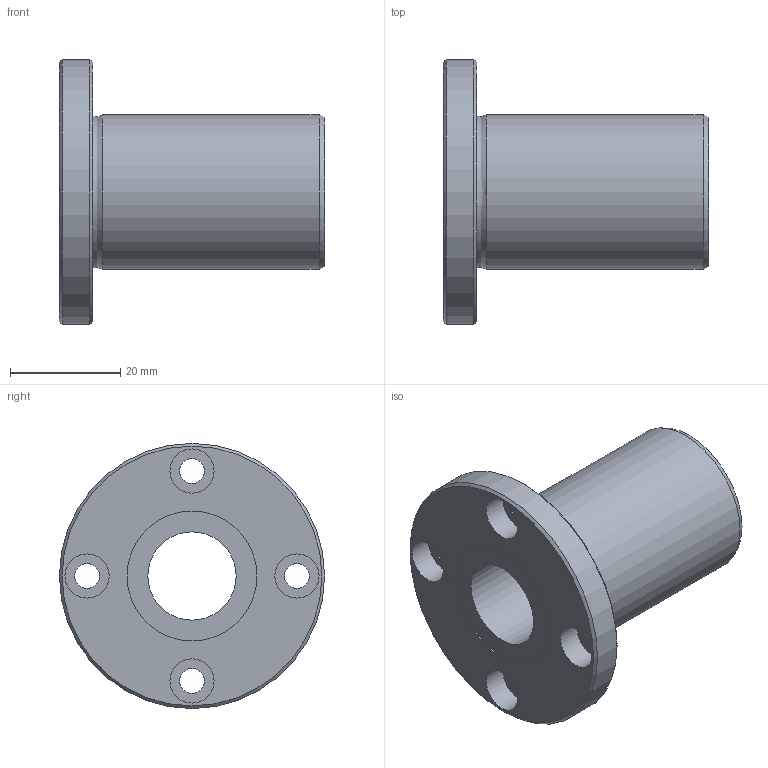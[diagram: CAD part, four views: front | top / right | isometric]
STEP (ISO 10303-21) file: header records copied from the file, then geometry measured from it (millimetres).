
FILE_DESCRIPTION((''),'2;1');
FILE_NAME('D:\製品 (図面)\カタログ用3D\メンテナンスフリー関連\STEP形式\LF-MF\LF16MF.stp','2010-06-01T16:04:54',('Tsuchiya'),(''),'Autodesk Inventor 10','Autodesk Inventor 10','');
FILE_SCHEMA(('AUTOMOTIVE_DESIGN { 1 0 10303 214 1 1 1 1 }'));
Length unit declared in the file: millimetre
Products named in the file (1): LF16MF
Bounding box: 48 x 48 x 48 mm (x, y, z)
Volume: 25947 mm3; surface area: 10539.7 mm2
Topology: 1 solids, 1 shells, 26 faces, 47 edges, 30 vertices
Faces by surface type: cylinder 13, plane 9, cone 2, torus 1, bspline 1
Full cylindrical faces by diameter (mm): 4.5 x4, 8 x4, 16 x1, 23.5 x2, 28 x1, 48 x1
Entity records: 665 total; most frequent: CARTESIAN_POINT 149, DIRECTION 112, ORIENTED_EDGE 60, EDGE_LOOP 60, AXIS2_PLACEMENT_3D 56, FACE_BOUND 34, VERTEX_POINT 30, CIRCLE 30
